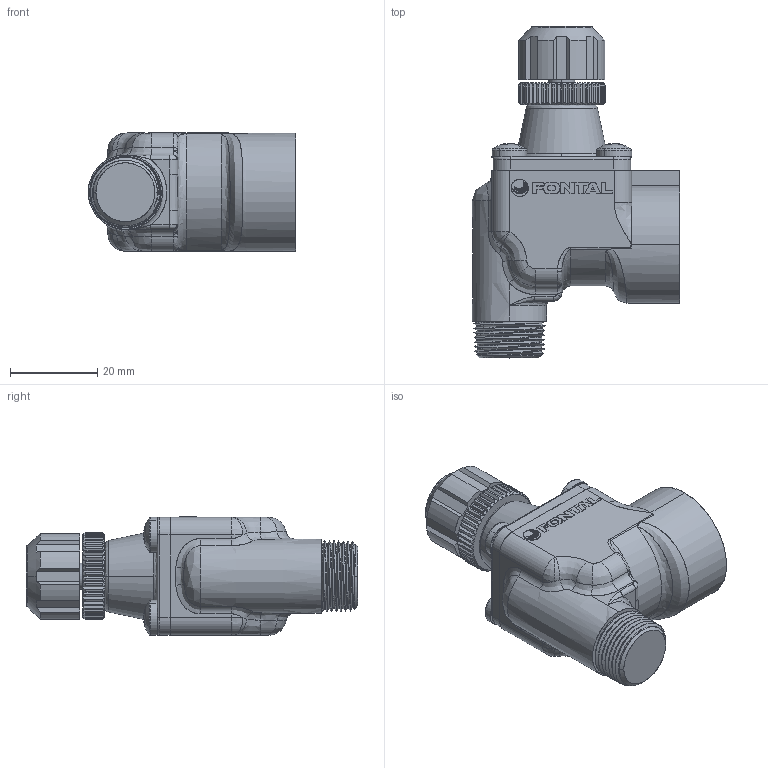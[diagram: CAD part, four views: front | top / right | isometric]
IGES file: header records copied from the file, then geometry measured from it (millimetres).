
Start section: SolidWorks IGES file using analytic representation for surfaces
Global section: file name: D:\Custom\3D繪製\Z-H\10\SPE-10-3.IGS,1; native system: 5HSolidWorks 2014; preprocessor: SolidWorks 2014; author: Chieh_Lu; date: 160115.041739; units: millimetre
Bounding box: 47.5 x 76 x 27.11 mm (x, y, z)
Surface area: 13807.7 mm2 (no closed solid volume)
Topology: 0 solids, 0 shells, 672 faces, 6203 edges, 6187 vertices
Faces by surface type: bspline 376, revolution 296
